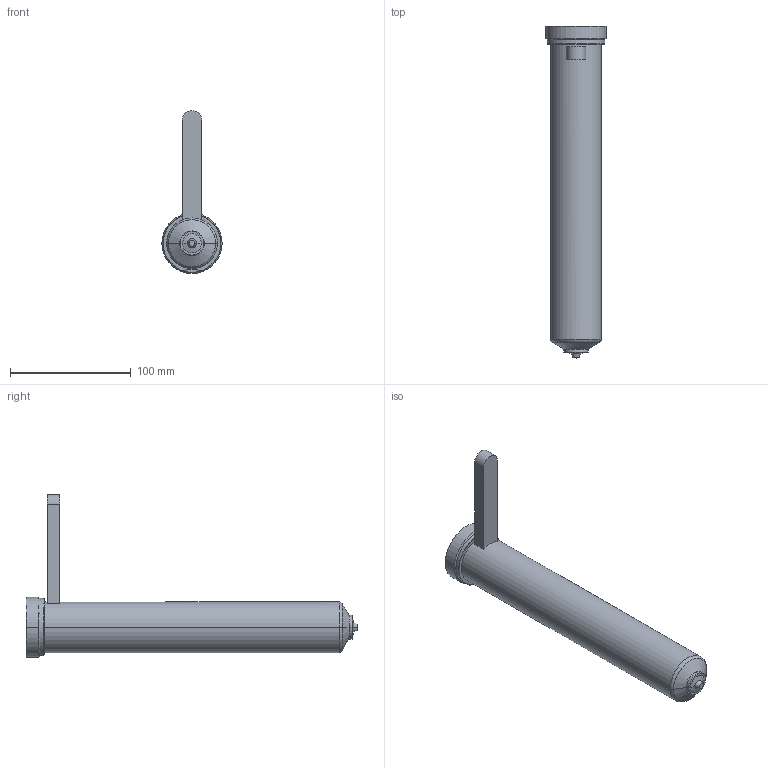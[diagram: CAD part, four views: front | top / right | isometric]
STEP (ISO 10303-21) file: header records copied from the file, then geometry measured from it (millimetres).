
FILE_DESCRIPTION((''),'2;1');
FILE_NAME('EO16_VG-BL_WR_260_COT','2024-02-19T13:22:25',('sundharh'),(''),'CREO PARAMETRIC BY PTC INC, 2023154','CREO PARAMETRIC BY PTC INC, 2023154','');
FILE_SCHEMA(('CONFIG_CONTROL_DESIGN'));
Length unit declared in the file: millimetre
Products named in the file (1): EO16_VG-BL_WR_260_COT
Bounding box: 50 x 275 x 135 mm (x, y, z)
Volume: 390651.1 mm3; surface area: 43621.7 mm2
Topology: 1 solids, 1 shells, 38 faces, 81 edges, 48 vertices
Faces by surface type: cylinder 11, plane 10, torus 9, cone 6, sphere 2
Entity records: 1151 total; most frequent: CARTESIAN_POINT 263, DIRECTION 199, ORIENTED_EDGE 162, AXIS2_PLACEMENT_3D 86, EDGE_CURVE 81, VERTEX_POINT 48, CIRCLE 48, EDGE_LOOP 41
